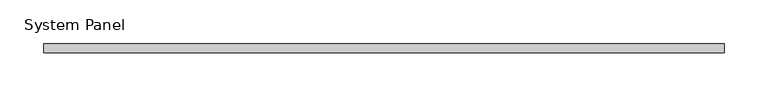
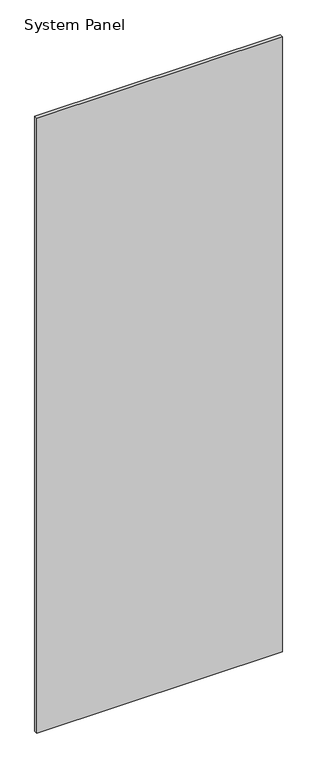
"""IFC4 building model written with IfcOpenShell, lengths in millimetres: plate geometry, System Panel : стекло_смещение_0."""

import ifcopenshell
import ifcopenshell.guid

model = None  # the IFC model being written
_history = None  # IfcOwnerHistory: only IFC2X3 demands one
_inside = {}  # id of a spatial element -> (the spatial element, [elements in it])
_under = {}  # id of a project, library or spatial element -> (it, [spatial elements below it])
_declared = {}  # id of a project -> (the project, [libraries it declares])
_typed = {}  # id of a type object -> (the type object, [elements of that type])
_made_of = {}  # id of a material, layer set ... -> (it, [elements and type objects made of it])


def new_model(schema):
    """Start an empty IFC model of exactly this schema.

    Asked for "IFC4X3", IfcOpenShell would pick the latest addendum, in which some entities
    have other attributes; the version numbers below select the first issue.
    IFC2X3 requires an IfcOwnerHistory on every rooted entity: one is made here for all.
    """
    global model, _history
    if schema == "IFC4X3":
        model = ifcopenshell.file(schema_version=(4, 3, 0, 0))
    else:
        model = ifcopenshell.file(schema=schema)
    _inside.clear()
    _under.clear()
    _declared.clear()
    _typed.clear()
    _made_of.clear()
    _history = None
    if model.schema == "IFC2X3":
        org = make("IfcOrganization", Name="unknown")
        user = make(
            "IfcPersonAndOrganization",
            ThePerson=make("IfcPerson", FamilyName="unknown"),
            TheOrganization=org,
        )
        app = make(
            "IfcApplication",
            ApplicationDeveloper=org,
            Version="unknown",
            ApplicationFullName="unknown",
            ApplicationIdentifier="unknown",
        )
        _history = make(
            "IfcOwnerHistory",
            OwningUser=user,
            OwningApplication=app,
            ChangeAction="ADDED",
            CreationDate=0,
        )
    return model


def make(cls, **values):
    """One entity of the class cls with the attributes given. An attribute that is None is left unset."""
    return model.create_entity(
        cls, **{name: value for name, value in values.items() if value is not None}
    )


def rooted(cls, **values):
    """An entity with a GlobalId (a new one), such as an element, a storey or a relation."""
    return make(cls, GlobalId=ifcopenshell.guid.new(), OwnerHistory=_history, **values)


def si_unit(unit_type, name, prefix=None):
    """IfcSIUnit, for example si_unit("LENGTHUNIT", "METRE", prefix="MILLI")."""
    return make("IfcSIUnit", UnitType=unit_type, Prefix=prefix, Name=name)


def assignment(units):
    """IfcUnitAssignment: the units of a project."""
    return None if units is None else make("IfcUnitAssignment", Units=units)


def point(xyz):
    """IfcCartesianPoint."""
    return None if xyz is None else make("IfcCartesianPoint", Coordinates=xyz)


def direction(xyz):
    """IfcDirection."""
    return None if xyz is None else make("IfcDirection", DirectionRatios=xyz)


def frame(location, z_axis=None, x_axis=None):
    """IfcAxis2Placement3D, a coordinate frame: its origin and axes. An axis left out is left unset."""
    return make(
        "IfcAxis2Placement3D",
        Location=point(location),
        Axis=direction(z_axis),
        RefDirection=direction(x_axis),
    )


def origin():
    """The frame at (0, 0, 0) with its axes left unset."""
    return frame((0.0, 0.0, 0.0))


def origin_with_axes():
    """The frame at (0, 0, 0) with the z axis (0, 0, 1) and the x axis (1, 0, 0) written out."""
    return frame((0.0, 0.0, 0.0), z_axis=(0.0, 0.0, 1.0), x_axis=(1.0, 0.0, 0.0))


def place(relative_to, where):
    """IfcLocalPlacement: puts the frame where relative to a parent placement (None: the world)."""
    return make(
        "IfcLocalPlacement", PlacementRelTo=relative_to, RelativePlacement=where
    )


def context(
    kind, dimensions, precision=None, world=None, true_north=None, identifier=None
):
    """IfcGeometricRepresentationContext, for example the 3D "Model" context."""
    return make(
        "IfcGeometricRepresentationContext",
        ContextIdentifier=identifier,
        ContextType=kind,
        CoordinateSpaceDimension=dimensions,
        Precision=precision,
        WorldCoordinateSystem=world,
        TrueNorth=true_north,
    )


def project(units=None, contexts=None):
    """IfcProject with its units and contexts."""
    return rooted(
        "IfcProject",
        Name="project",
        RepresentationContexts=contexts,
        UnitsInContext=assignment(units),
    )


def spatial(cls, under=None, at=None, **own):
    """A site, building, storey or space (cls), placed at a placement, below another one or the project."""
    s = rooted(cls, ObjectPlacement=at, **own)
    if under is not None:
        _under.setdefault(under.id(), (under, []))[1].append(s)
    return s


def polyline(points):
    """IfcPolyline through the points."""
    return make("IfcPolyline", Points=[point(p) for p in points])


def outline(outer, holes=None, kind="AREA"):
    """IfcArbitraryClosedProfileDef: a profile drawn as a closed curve; with holes, ...WithVoids."""
    if holes is None:
        return make("IfcArbitraryClosedProfileDef", ProfileType=kind, OuterCurve=outer)
    return make(
        "IfcArbitraryProfileDefWithVoids",
        ProfileType=kind,
        OuterCurve=outer,
        InnerCurves=holes,
    )


def extrude(swept, where, along, depth):
    """IfcExtrudedAreaSolid: the profile swept, set in the frame where, extruded along a direction by depth."""
    return make(
        "IfcExtrudedAreaSolid",
        SweptArea=swept,
        Position=where,
        ExtrudedDirection=direction(along),
        Depth=depth,
    )


def shape(context_of_items, identifier, shape_type, items):
    """IfcShapeRepresentation: the items that make up one representation, for example the "Body"."""
    return make(
        "IfcShapeRepresentation",
        ContextOfItems=context_of_items,
        RepresentationIdentifier=identifier,
        RepresentationType=shape_type,
        Items=items,
    )


def source(mapping_origin, context_of_items, identifier, shape_type, items):
    """IfcRepresentationMap: a shape defined once, which mapped items show again and again."""
    return make(
        "IfcRepresentationMap",
        MappingOrigin=mapping_origin,
        MappedRepresentation=shape(context_of_items, identifier, shape_type, items),
    )


def transform(
    local_origin,
    x_axis=None,
    y_axis=None,
    z_axis=None,
    scale=None,
    scale2=None,
    scale3=None,
    uniform=True,
):
    """IfcCartesianTransformationOperator3D, or its non-uniform kind. x_axis, y_axis, z_axis: its Axis1, 2, 3."""
    if uniform:
        return make(
            "IfcCartesianTransformationOperator3D",
            Axis1=direction(x_axis),
            Axis2=direction(y_axis),
            LocalOrigin=point(local_origin),
            Scale=scale,
            Axis3=direction(z_axis),
        )
    return make(
        "IfcCartesianTransformationOperator3DnonUniform",
        Axis1=direction(x_axis),
        Axis2=direction(y_axis),
        LocalOrigin=point(local_origin),
        Scale=scale,
        Axis3=direction(z_axis),
        Scale2=scale2,
        Scale3=scale3,
    )


def mapped(mapping_source, mapping_target):
    """IfcMappedItem: shows the shape of a source again, moved by a transform."""
    return make(
        "IfcMappedItem", MappingSource=mapping_source, MappingTarget=mapping_target
    )


def made_of(thing, what):
    """Note that an element or type object is made of a material, layer set ...; save() writes the relation."""
    if what is not None:
        _made_of.setdefault(what.id(), (what, []))[1].append(thing)
    return thing


def element(
    cls,
    number,
    at=None,
    inside=None,
    cuts=None,
    type_object=None,
    material=None,
    context=None,
    identifier="Body",
    shape_type=None,
    held_by="IfcProductDefinitionShape",
    body=None,
    shapes=None,
    **own,
):
    """One element of the class cls, such as IfcWall. Its Tag is "e" and its number.

    at: its placement. inside: the storey or other place that contains it. cuts: it is an
    opening in that element (IfcRelVoidsElement). A single representation is given by context,
    identifier, shape_type and body (its items); several are given by shapes. held_by: the class
    of the entity that holds the representations. save() writes the other relations.
    """
    e = rooted(cls, Tag="e%d" % number, ObjectPlacement=at, **own)
    if body is not None:
        shapes = [shape(context, identifier, shape_type, body)]
    if shapes is not None:
        e.Representation = make(held_by, Representations=shapes)
    if inside is not None:
        _inside.setdefault(inside.id(), (inside, []))[1].append(e)
    if cuts is not None:
        rooted(
            "IfcRelVoidsElement", RelatingBuildingElement=cuts, RelatedOpeningElement=e
        )
    if type_object is not None:
        _typed.setdefault(type_object.id(), (type_object, []))[1].append(e)
    return made_of(e, material)


def aggregate(whole, parts):
    """IfcRelAggregates: a whole, such as a stair, and the parts it consists of."""
    return rooted("IfcRelAggregates", RelatingObject=whole, RelatedObjects=parts)


def save(model, path):
    """Write the relations noted so far, then the file.

    IfcRelAggregates (storeys below a building ...), IfcRelContainedInSpatialStructure (elements
    in a storey), IfcRelDefinesByType, IfcRelAssociatesMaterial and IfcRelDeclares: one each for
    every whole, place, type object, material and project.
    """
    for whole, parts in _under.values():
        aggregate(whole, parts)
    for where, things in _inside.values():
        rooted(
            "IfcRelContainedInSpatialStructure",
            RelatedElements=things,
            RelatingStructure=where,
        )
    for kind, things in _typed.values():
        rooted("IfcRelDefinesByType", RelatedObjects=things, RelatingType=kind)
    for what, things in _made_of.values():
        rooted("IfcRelAssociatesMaterial", RelatedObjects=things, RelatingMaterial=what)
    for by, libraries in _declared.values():
        rooted("IfcRelDeclares", RelatingContext=by, RelatedDefinitions=libraries)
    model.write(path)


def system_panel_27c0209b(model_context):
    return source(origin(), model_context, "Body", "SweptSolid", [
        extrude(outline(polyline([(387.5, -5.0), (-387.5, -5.0), (-387.5, 5.0), (387.5, 5.0), (387.5, -5.0)])), origin_with_axes(), (0.0, 0.0, 1.0), 2050.0),
    ])


if __name__ == "__main__":
    model = new_model("IFC4")
    model_context = context("Model", 3, world=origin())
    ifc_project = project(units=[si_unit("LENGTHUNIT", "METRE", prefix="MILLI")], contexts=[model_context])
    site = spatial("IfcSite", under=ifc_project)
    building = spatial("IfcBuilding", under=site)
    placement = place(None, origin())
    system_panel_shape = system_panel_27c0209b(model_context)
    element("IfcPlate", 1, ObjectType="System Panel : стекло_смещение_0", at=placement, inside=building, context=model_context, shape_type="MappedRepresentation", body=[
        mapped(system_panel_shape, transform((0.0, 0.0, 0.0), x_axis=(1.0, 0.0, 0.0), y_axis=(0.0, 1.0, 0.0), z_axis=(0.0, 0.0, 1.0))),
    ])
    save(model, "model.ifc")
